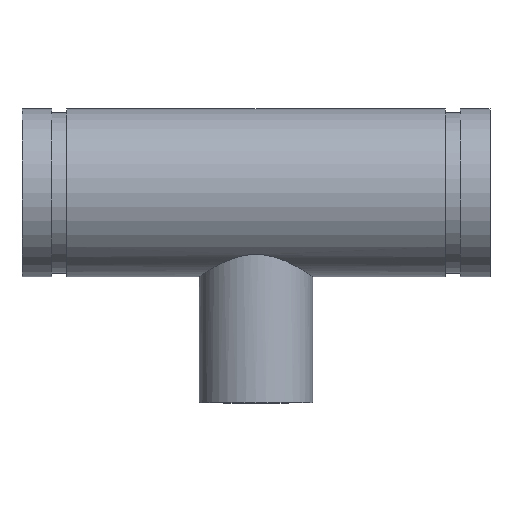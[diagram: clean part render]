
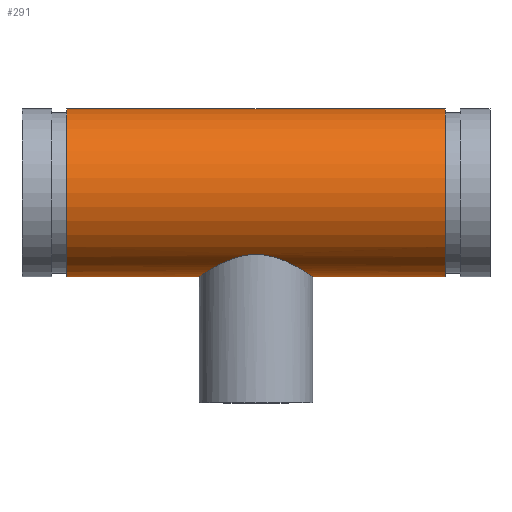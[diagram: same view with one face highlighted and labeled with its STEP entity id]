
A CAD part, top view. The second image highlights one B-rep face of the part: STEP entity #291.
In plain terms, the highlighted cylindrical face has radius 44.45 mm (diameter 88.9 mm), a full revolution.
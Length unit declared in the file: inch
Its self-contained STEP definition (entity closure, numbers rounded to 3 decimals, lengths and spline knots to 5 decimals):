
#45=B_SPLINE_CURVE_WITH_KNOTS('',3,(#511,#512,#513,#514,#515,#516,#517,
#518,#519,#520,#521,#522,#523,#524,#525,#526,#527,#528,#529,#530,#531,#532,
#533,#534,#535,#536,#537,#538,#539,#540,#541,#542,#543,#544,#545,#546,#547,
#548,#549,#550,#551,#552,#553,#554,#555,#556,#557,#558,#559,#560),
 .UNSPECIFIED.,.F.,.F.,(4,2,2,2,2,2,2,2,2,2,2,2,2,2,2,2,2,2,2,2,2,2,2,2,
4),(0.,0.59649,1.19298,1.78948,2.38597,
2.97526,3.56454,4.15383,4.74312,5.33241,
5.92169,6.51098,7.10027,7.69676,8.29325,
8.88975,9.48624,10.08273,10.67922,11.27571,
11.8722,12.46149,13.05078,13.64007,14.22936),
 .UNSPECIFIED.);
#46=B_SPLINE_CURVE_WITH_KNOTS('',3,(#561,#562,#563,#564,#565,#566,#567,
#568,#569,#570,#571,#572,#573,#574,#575,#576,#577,#578),.UNSPECIFIED.,.F.,
 .F.,(4,2,2,2,2,2,2,2,4),(14.22936,14.81864,15.40793,
15.99722,16.58651,17.183,17.77949,18.37598,
18.97248),.UNSPECIFIED.);
#51=LINE('',#508,#59);
#59=VECTOR('',#410,1.75);
#67=CYLINDRICAL_SURFACE('',#338,1.75);
#77=FACE_BOUND('',#108,.T.);
#88=FACE_OUTER_BOUND('',#107,.T.);
#107=EDGE_LOOP('',(#221,#222,#223,#224));
#108=EDGE_LOOP('',(#225,#226));
#121=CIRCLE('',#321,1.75);
#132=CIRCLE('',#337,1.75);
#141=VERTEX_POINT('',#476);
#152=VERTEX_POINT('',#505);
#153=VERTEX_POINT('',#509);
#154=VERTEX_POINT('',#510);
#165=EDGE_CURVE('',#141,#141,#121,.T.);
#178=EDGE_CURVE('',#152,#152,#132,.T.);
#179=EDGE_CURVE('',#152,#141,#51,.T.);
#180=EDGE_CURVE('',#153,#154,#45,.T.);
#181=EDGE_CURVE('',#154,#153,#46,.T.);
#221=ORIENTED_EDGE('',*,*,#178,.T.);
#222=ORIENTED_EDGE('',*,*,#179,.T.);
#223=ORIENTED_EDGE('',*,*,#165,.T.);
#224=ORIENTED_EDGE('',*,*,#179,.F.);
#225=ORIENTED_EDGE('',*,*,#180,.F.);
#226=ORIENTED_EDGE('',*,*,#181,.F.);
#291=ADVANCED_FACE('',(#88,#77),#67,.T.);
#321=AXIS2_PLACEMENT_3D('',#477,#372,#373);
#337=AXIS2_PLACEMENT_3D('',#506,#406,#407);
#338=AXIS2_PLACEMENT_3D('',#507,#408,#409);
#372=DIRECTION('center_axis',(-1.,0.,0.));
#373=DIRECTION('ref_axis',(0.,-1.,0.));
#406=DIRECTION('center_axis',(1.,0.,0.));
#407=DIRECTION('ref_axis',(0.,-1.,0.));
#408=DIRECTION('center_axis',(-1.,0.,0.));
#409=DIRECTION('ref_axis',(0.,-1.,0.));
#410=DIRECTION('',(1.,0.,0.));
#476=CARTESIAN_POINT('',(3.942,1.75,0.));
#477=CARTESIAN_POINT('Origin',(3.942,0.,0.));
#505=CARTESIAN_POINT('',(-3.942,1.75,0.));
#506=CARTESIAN_POINT('Origin',(-3.942,0.,0.));
#507=CARTESIAN_POINT('Origin',(4.88,0.,0.));
#508=CARTESIAN_POINT('',(4.88,1.75,0.));
#509=CARTESIAN_POINT('',(0.,-1.28544,-1.1875));
#510=CARTESIAN_POINT('',(-1.1875,-1.75,0.));
#511=CARTESIAN_POINT('Ctrl Pts',(0.,-1.28544,
-1.1875));
#512=CARTESIAN_POINT('Ctrl Pts',(0.07828,-1.28544,-1.1875));
#513=CARTESIAN_POINT('Ctrl Pts',(0.15768,-1.29281,-1.17966));
#514=CARTESIAN_POINT('Ctrl Pts',(0.31324,-1.32084,-1.14819));
#515=CARTESIAN_POINT('Ctrl Pts',(0.38943,-1.3414,-1.12458));
#516=CARTESIAN_POINT('Ctrl Pts',(0.53421,-1.39035,-1.06346));
#517=CARTESIAN_POINT('Ctrl Pts',(0.60296,-1.41871,-1.0259));
#518=CARTESIAN_POINT('Ctrl Pts',(0.72989,-1.47713,-0.93984));
#519=CARTESIAN_POINT('Ctrl Pts',(0.78806,-1.50716,-0.89132));
#520=CARTESIAN_POINT('Ctrl Pts',(0.89069,-1.56328,-0.78869));
#521=CARTESIAN_POINT('Ctrl Pts',(0.9391,-1.59156,-0.73085));
#522=CARTESIAN_POINT('Ctrl Pts',(1.02536,-1.64394,-0.60389));
#523=CARTESIAN_POINT('Ctrl Pts',(1.06323,-1.66801,-0.53475));
#524=CARTESIAN_POINT('Ctrl Pts',(1.12474,-1.70787,-0.38906));
#525=CARTESIAN_POINT('Ctrl Pts',(1.14844,-1.72369,-0.31236));
#526=CARTESIAN_POINT('Ctrl Pts',(1.17982,-1.74476,-0.1565));
#527=CARTESIAN_POINT('Ctrl Pts',(1.1875,-1.75,-0.07733));
#528=CARTESIAN_POINT('Ctrl Pts',(1.1875,-1.75,0.07733));
#529=CARTESIAN_POINT('Ctrl Pts',(1.17982,-1.74476,0.1565));
#530=CARTESIAN_POINT('Ctrl Pts',(1.14844,-1.72369,0.31236));
#531=CARTESIAN_POINT('Ctrl Pts',(1.12474,-1.70787,0.38906));
#532=CARTESIAN_POINT('Ctrl Pts',(1.06323,-1.66801,0.53475));
#533=CARTESIAN_POINT('Ctrl Pts',(1.02536,-1.64394,0.60389));
#534=CARTESIAN_POINT('Ctrl Pts',(0.9391,-1.59156,0.73085));
#535=CARTESIAN_POINT('Ctrl Pts',(0.89069,-1.56328,0.78869));
#536=CARTESIAN_POINT('Ctrl Pts',(0.78806,-1.50716,0.89132));
#537=CARTESIAN_POINT('Ctrl Pts',(0.72989,-1.47713,0.93984));
#538=CARTESIAN_POINT('Ctrl Pts',(0.60296,-1.41871,1.0259));
#539=CARTESIAN_POINT('Ctrl Pts',(0.53421,-1.39035,1.06346));
#540=CARTESIAN_POINT('Ctrl Pts',(0.38943,-1.3414,1.12458));
#541=CARTESIAN_POINT('Ctrl Pts',(0.31324,-1.32084,1.14819));
#542=CARTESIAN_POINT('Ctrl Pts',(0.15768,-1.29281,1.17966));
#543=CARTESIAN_POINT('Ctrl Pts',(0.07828,-1.28544,1.1875));
#544=CARTESIAN_POINT('Ctrl Pts',(-0.07828,-1.28544,1.1875));
#545=CARTESIAN_POINT('Ctrl Pts',(-0.15768,-1.29281,1.17966));
#546=CARTESIAN_POINT('Ctrl Pts',(-0.31324,-1.32084,1.14819));
#547=CARTESIAN_POINT('Ctrl Pts',(-0.38943,-1.3414,1.12458));
#548=CARTESIAN_POINT('Ctrl Pts',(-0.53421,-1.39035,1.06346));
#549=CARTESIAN_POINT('Ctrl Pts',(-0.60296,-1.41871,1.0259));
#550=CARTESIAN_POINT('Ctrl Pts',(-0.72989,-1.47713,0.93984));
#551=CARTESIAN_POINT('Ctrl Pts',(-0.78806,-1.50716,0.89132));
#552=CARTESIAN_POINT('Ctrl Pts',(-0.89069,-1.56328,0.78869));
#553=CARTESIAN_POINT('Ctrl Pts',(-0.9391,-1.59156,0.73085));
#554=CARTESIAN_POINT('Ctrl Pts',(-1.02536,-1.64394,0.60389));
#555=CARTESIAN_POINT('Ctrl Pts',(-1.06323,-1.66801,0.53475));
#556=CARTESIAN_POINT('Ctrl Pts',(-1.12474,-1.70787,0.38906));
#557=CARTESIAN_POINT('Ctrl Pts',(-1.14844,-1.72369,0.31236));
#558=CARTESIAN_POINT('Ctrl Pts',(-1.17982,-1.74476,0.1565));
#559=CARTESIAN_POINT('Ctrl Pts',(-1.1875,-1.75,0.07733));
#560=CARTESIAN_POINT('Ctrl Pts',(-1.1875,-1.75,0.));
#561=CARTESIAN_POINT('Ctrl Pts',(-1.1875,-1.75,0.));
#562=CARTESIAN_POINT('Ctrl Pts',(-1.1875,-1.75,-0.07733));
#563=CARTESIAN_POINT('Ctrl Pts',(-1.17982,-1.74476,-0.1565));
#564=CARTESIAN_POINT('Ctrl Pts',(-1.14844,-1.72369,-0.31236));
#565=CARTESIAN_POINT('Ctrl Pts',(-1.12474,-1.70787,-0.38906));
#566=CARTESIAN_POINT('Ctrl Pts',(-1.06323,-1.66801,-0.53475));
#567=CARTESIAN_POINT('Ctrl Pts',(-1.02536,-1.64394,-0.60389));
#568=CARTESIAN_POINT('Ctrl Pts',(-0.9391,-1.59156,-0.73085));
#569=CARTESIAN_POINT('Ctrl Pts',(-0.89069,-1.56328,-0.78869));
#570=CARTESIAN_POINT('Ctrl Pts',(-0.78806,-1.50716,-0.89132));
#571=CARTESIAN_POINT('Ctrl Pts',(-0.72989,-1.47713,-0.93984));
#572=CARTESIAN_POINT('Ctrl Pts',(-0.60296,-1.41871,-1.0259));
#573=CARTESIAN_POINT('Ctrl Pts',(-0.53421,-1.39035,-1.06346));
#574=CARTESIAN_POINT('Ctrl Pts',(-0.38943,-1.3414,-1.12458));
#575=CARTESIAN_POINT('Ctrl Pts',(-0.31324,-1.32084,-1.14819));
#576=CARTESIAN_POINT('Ctrl Pts',(-0.15768,-1.29281,-1.17966));
#577=CARTESIAN_POINT('Ctrl Pts',(-0.07828,-1.28544,-1.1875));
#578=CARTESIAN_POINT('Ctrl Pts',(0.,-1.28544,
-1.1875));
